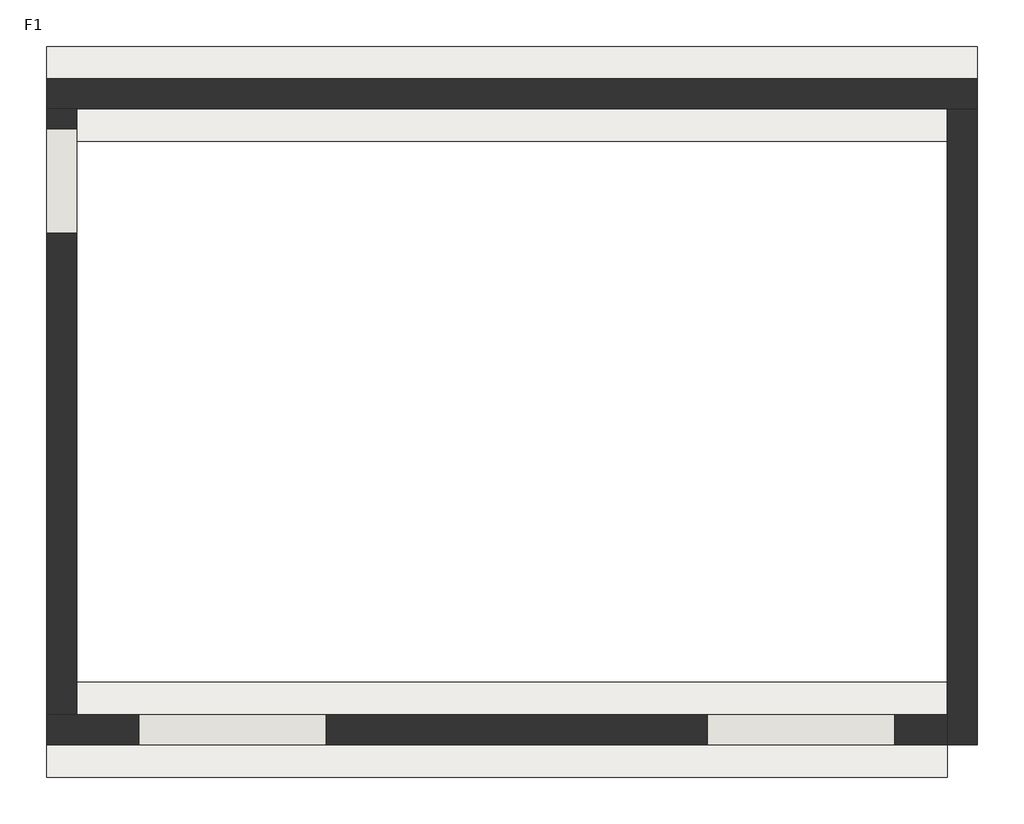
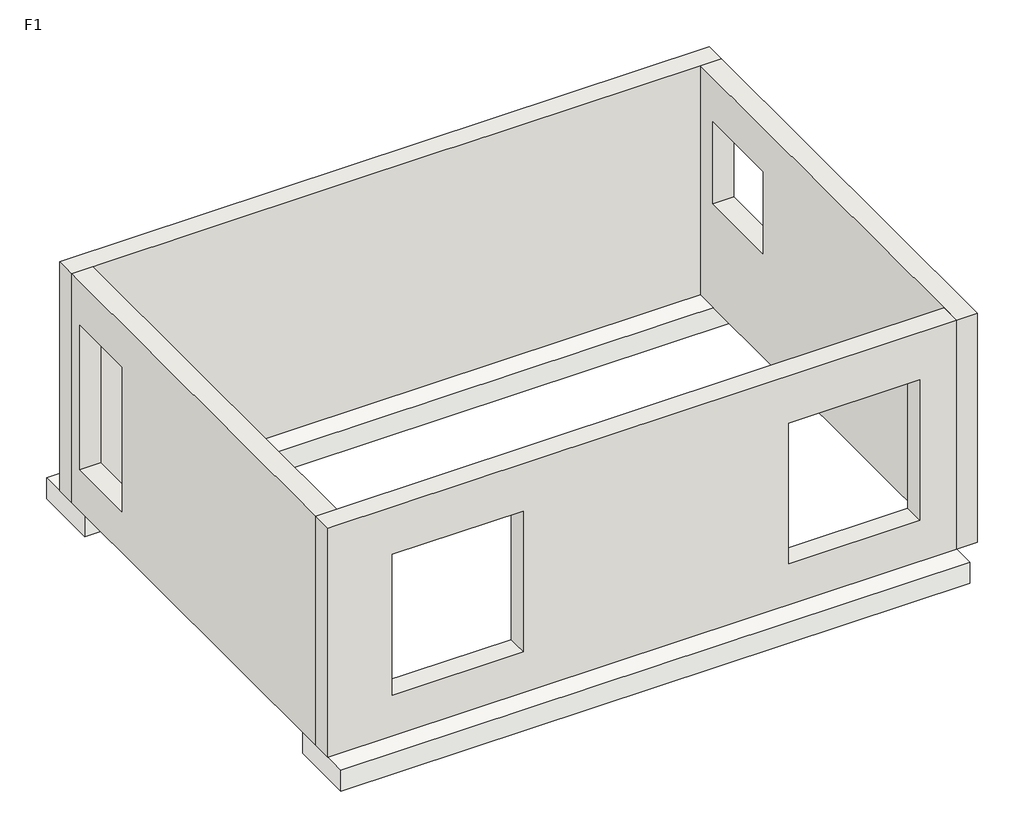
# One storey: 4 walls, 2 footings.
"""IFC4 building model written with IfcOpenShell, lengths in millimetres."""

from ifc_helpers import new_model, si_unit, frame, origin, place, context, project, spatial, polyline, outline, extrude, faceted_brep, element, save

model = new_model("IFC4")

# Units and contexts
model_context = context("Model", 3, world=origin())
ifc_project = project(units=[si_unit("LENGTHUNIT", "METRE", prefix="MILLI")], contexts=[model_context])

# Site, building, storey
site = spatial("IfcSite", under=ifc_project)
building = spatial("IfcBuilding", under=site)
storey = spatial("IfcBuildingStorey", under=building, Name="F1", Elevation=-450.0)

# Footings
placement = place(None, origin())
element("IfcFooting", 1, ObjectType="Wall Foundation", at=placement, inside=storey, context=model_context, shape_type="SweptSolid", body=[
    extrude(outline(polyline([(1765.1139143, -8159.2820976), (1765.1139143, -9073.6820976), (-6924.8860857, -9073.6820976), (-6924.8860857, -8159.2820976), (1765.1139143, -8159.2820976)])), frame((0.0, 0.0, -754.8), z_axis=(0.0, 0.0, 1.0), x_axis=(1.0, 0.0, 0.0)), (0.0, 0.0, 1.0), 304.8),
])
element("IfcFooting", 2, ObjectType="Wall Foundation", at=placement, inside=storey, context=model_context, shape_type="SweptSolid", body=[
    extrude(outline(polyline([(-6924.8860857, -2940.0572404), (-6924.8860857, -2025.6572404), (2055.1139143, -2025.6572404), (2055.1139143, -2940.0572404), (-6924.8860857, -2940.0572404)])), frame((0.0, 0.0, -754.8), z_axis=(0.0, 0.0, 1.0), x_axis=(1.0, 0.0, 0.0)), (0.0, 0.0, 1.0), 304.8),
])

# Walls
element("IfcWall", 3, ObjectType="External Wall", at=placement, inside=storey, context=model_context, shape_type="Brep", body=[
    faceted_brep([(-6924.8860857, -2627.8572404, -450.0), (-6634.8860857, -2627.8572404, -450.0), (1765.1139143, -2627.8572404, -450.0), (2055.1139143, -2627.8572404, -450.0), (2055.1139143, -2627.8572404, 2900.0), (1765.1139143, -2627.8572404, 2900.0), (-1644.8860857, -2627.8572404, 2900.0), (-1739.8860857, -2627.8572404, 2900.0), (-6634.8860857, -2627.8572404, 2900.0), (-6924.8860857, -2627.8572404, 2900.0), (-6924.8860857, -2337.8572404, -450.0), (-6924.8860857, -2337.8572404, 2900.0), (2055.1139143, -2337.8572404, 2900.0), (2055.1139143, -2337.8572404, -450.0)], [[[0, 1, 2, 3, 4, 5, 6, 7, 8, 9]], [[10, 11, 12, 13]], [[3, 2, 1, 0, 10, 13]], [[9, 8, 7, 6, 5, 4, 12, 11]], [[4, 3, 13, 12]], [[0, 9, 11, 10]]]),
])
element("IfcWall", 4, ObjectType="External Wall", at=placement, inside=storey, context=model_context, shape_type="Brep", body=[
    faceted_brep([(1765.1139143, -2627.8572404, -450.0), (1765.1139143, -8471.4820976, -450.0), (1765.1139143, -8761.4820976, -450.0), (1765.1139143, -8761.4820976, 2900.0), (1765.1139143, -8471.4820976, 2900.0), (1765.1139143, -2627.8572404, 2900.0), (1765.1139143, -4127.8572404, 1060.0), (1765.1139143, -2927.8572404, 1060.0), (1765.1139143, -2927.8572404, 2260.0), (1765.1139143, -4127.8572404, 2260.0), (2055.1139143, -2627.8572404, -450.0), (2055.1139143, -2627.8572404, 2900.0), (2055.1139143, -8761.4820976, 2900.0), (2055.1139143, -8761.4820976, -450.0), (2055.1139143, -4127.8572404, 1060.0), (2055.1139143, -4127.8572404, 2260.0), (2055.1139143, -2927.8572404, 2260.0), (2055.1139143, -2927.8572404, 1060.0)], [[[0, 1, 2, 3, 4, 5], [6, 7, 8, 9]], [[10, 11, 12, 13], [14, 15, 16, 17]], [[2, 1, 0, 10, 13]], [[5, 4, 3, 12, 11]], [[3, 2, 13, 12]], [[15, 14, 6, 9]], [[16, 15, 9, 8]], [[17, 16, 8, 7]], [[14, 17, 7, 6]], [[0, 5, 11, 10]]]),
])
element("IfcWall", 5, ObjectType="External Wall", at=placement, inside=storey, context=model_context, shape_type="Brep", body=[
    faceted_brep([(1765.1139143, -8471.4820976, -450.0), (-6634.8860857, -8471.4820976, -450.0), (-6924.8860857, -8471.4820976, -450.0), (-6924.8860857, -8471.4820976, 2900.0), (-6634.8860857, -8471.4820976, 2900.0), (1765.1139143, -8471.4820976, 2900.0), (-6034.8860857, -8471.4820976, 2205.0), (-6034.8860857, -8471.4820976, 150.0), (-4224.8860857, -8471.4820976, 150.0), (-4224.8860857, -8471.4820976, 2205.0), (-552.3860857, -8471.4820976, 2205.0), (-552.3860857, -8471.4820976, 150.0), (1257.6139143, -8471.4820976, 150.0), (1257.6139143, -8471.4820976, 2205.0), (1765.1139143, -8761.4820976, -450.0), (1765.1139143, -8761.4820976, 2900.0), (-6924.8860857, -8761.4820976, 2900.0), (-6924.8860857, -8761.4820976, -450.0), (-6034.8860857, -8761.4820976, 2205.0), (-4224.8860857, -8761.4820976, 2205.0), (-4224.8860857, -8761.4820976, 150.0), (-6034.8860857, -8761.4820976, 150.0), (-552.3860857, -8761.4820976, 2205.0), (1257.6139143, -8761.4820976, 2205.0), (1257.6139143, -8761.4820976, 150.0), (-552.3860857, -8761.4820976, 150.0)], [[[0, 1, 2, 3, 4, 5], [6, 7, 8, 9], [10, 11, 12, 13]], [[14, 15, 16, 17], [18, 19, 20, 21], [22, 23, 24, 25]], [[2, 1, 0, 14, 17]], [[5, 4, 3, 16, 15]], [[0, 5, 15, 14]], [[3, 2, 17, 16]], [[7, 6, 18, 21]], [[8, 7, 21, 20]], [[9, 8, 20, 19]], [[6, 9, 19, 18]], [[11, 10, 22, 25]], [[12, 11, 25, 24]], [[13, 12, 24, 23]], [[10, 13, 23, 22]]]),
])
element("IfcWall", 6, ObjectType="External Wall", at=placement, inside=storey, context=model_context, shape_type="Brep", body=[
    faceted_brep([(-6634.8860857, -8471.4820976, -450.0), (-6634.8860857, -2627.8572404, -450.0), (-6634.8860857, -2627.8572404, 2900.0), (-6634.8860857, -5027.8572404, 2900.0), (-6634.8860857, -5122.8572404, 2900.0), (-6634.8860857, -8471.4820976, 2900.0), (-6634.8860857, -3827.8572404, 2260.0), (-6634.8860857, -2817.8572404, 2260.0), (-6634.8860857, -2817.8572404, 150.0), (-6634.8860857, -3827.8572404, 150.0), (-6924.8860857, -8471.4820976, -450.0), (-6924.8860857, -8471.4820976, 2900.0), (-6924.8860857, -2627.8572404, 2900.0), (-6924.8860857, -2627.8572404, -450.0), (-6924.8860857, -3827.8572404, 2260.0), (-6924.8860857, -3827.8572404, 150.0), (-6924.8860857, -2817.8572404, 150.0), (-6924.8860857, -2817.8572404, 2260.0)], [[[0, 1, 2, 3, 4, 5], [6, 7, 8, 9]], [[10, 11, 12, 13], [14, 15, 16, 17]], [[1, 0, 10, 13]], [[5, 4, 3, 2, 12, 11]], [[0, 5, 11, 10]], [[15, 14, 6, 9]], [[16, 15, 9, 8]], [[17, 16, 8, 7]], [[14, 17, 7, 6]], [[2, 1, 13, 12]]]),
])

save(model, "model.ifc")
